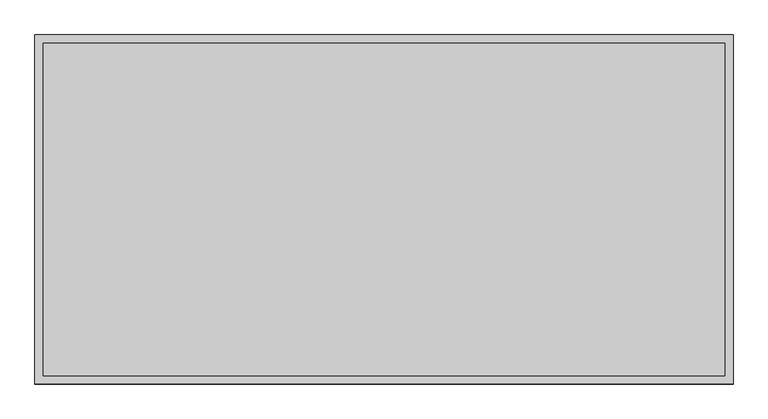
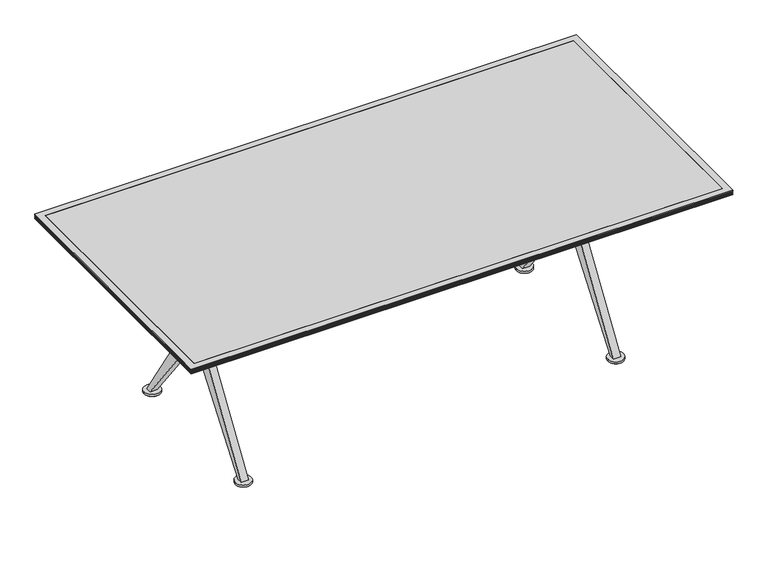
"""IFC4 building model written with IfcOpenShell, lengths in millimetres: furniture geometry, Coalesse_AM_Table_Conference_Ballet_Rectangular_XBase : Folding - 84L x 42W."""

import ifcopenshell
import ifcopenshell.guid

model = None  # the IFC model being written
_history = None  # IfcOwnerHistory: only IFC2X3 demands one
_inside = {}  # id of a spatial element -> (the spatial element, [elements in it])
_under = {}  # id of a project, library or spatial element -> (it, [spatial elements below it])
_declared = {}  # id of a project -> (the project, [libraries it declares])
_typed = {}  # id of a type object -> (the type object, [elements of that type])
_made_of = {}  # id of a material, layer set ... -> (it, [elements and type objects made of it])


def new_model(schema):
    """Start an empty IFC model of exactly this schema.

    Asked for "IFC4X3", IfcOpenShell would pick the latest addendum, in which some entities
    have other attributes; the version numbers below select the first issue.
    IFC2X3 requires an IfcOwnerHistory on every rooted entity: one is made here for all.
    """
    global model, _history
    if schema == "IFC4X3":
        model = ifcopenshell.file(schema_version=(4, 3, 0, 0))
    else:
        model = ifcopenshell.file(schema=schema)
    _inside.clear()
    _under.clear()
    _declared.clear()
    _typed.clear()
    _made_of.clear()
    _history = None
    if model.schema == "IFC2X3":
        org = make("IfcOrganization", Name="unknown")
        user = make(
            "IfcPersonAndOrganization",
            ThePerson=make("IfcPerson", FamilyName="unknown"),
            TheOrganization=org,
        )
        app = make(
            "IfcApplication",
            ApplicationDeveloper=org,
            Version="unknown",
            ApplicationFullName="unknown",
            ApplicationIdentifier="unknown",
        )
        _history = make(
            "IfcOwnerHistory",
            OwningUser=user,
            OwningApplication=app,
            ChangeAction="ADDED",
            CreationDate=0,
        )
    return model


def make(cls, **values):
    """One entity of the class cls with the attributes given. An attribute that is None is left unset."""
    return model.create_entity(
        cls, **{name: value for name, value in values.items() if value is not None}
    )


def rooted(cls, **values):
    """An entity with a GlobalId (a new one), such as an element, a storey or a relation."""
    return make(cls, GlobalId=ifcopenshell.guid.new(), OwnerHistory=_history, **values)


def si_unit(unit_type, name, prefix=None):
    """IfcSIUnit, for example si_unit("LENGTHUNIT", "METRE", prefix="MILLI")."""
    return make("IfcSIUnit", UnitType=unit_type, Prefix=prefix, Name=name)


def assignment(units):
    """IfcUnitAssignment: the units of a project."""
    return None if units is None else make("IfcUnitAssignment", Units=units)


def point(xyz):
    """IfcCartesianPoint."""
    return None if xyz is None else make("IfcCartesianPoint", Coordinates=xyz)


def direction(xyz):
    """IfcDirection."""
    return None if xyz is None else make("IfcDirection", DirectionRatios=xyz)


def frame(location, z_axis=None, x_axis=None):
    """IfcAxis2Placement3D, a coordinate frame: its origin and axes. An axis left out is left unset."""
    return make(
        "IfcAxis2Placement3D",
        Location=point(location),
        Axis=direction(z_axis),
        RefDirection=direction(x_axis),
    )


def frame_2d(location, x_axis=None):
    """IfcAxis2Placement2D, a coordinate frame in the plane: its origin and x axis."""
    return make(
        "IfcAxis2Placement2D", Location=point(location), RefDirection=direction(x_axis)
    )


def origin():
    """The frame at (0, 0, 0) with its axes left unset."""
    return frame((0.0, 0.0, 0.0))


def origin_with_axes():
    """The frame at (0, 0, 0) with the z axis (0, 0, 1) and the x axis (1, 0, 0) written out."""
    return frame((0.0, 0.0, 0.0), z_axis=(0.0, 0.0, 1.0), x_axis=(1.0, 0.0, 0.0))


def place(relative_to, where):
    """IfcLocalPlacement: puts the frame where relative to a parent placement (None: the world)."""
    return make(
        "IfcLocalPlacement", PlacementRelTo=relative_to, RelativePlacement=where
    )


def context(
    kind, dimensions, precision=None, world=None, true_north=None, identifier=None
):
    """IfcGeometricRepresentationContext, for example the 3D "Model" context."""
    return make(
        "IfcGeometricRepresentationContext",
        ContextIdentifier=identifier,
        ContextType=kind,
        CoordinateSpaceDimension=dimensions,
        Precision=precision,
        WorldCoordinateSystem=world,
        TrueNorth=true_north,
    )


def project(units=None, contexts=None):
    """IfcProject with its units and contexts."""
    return rooted(
        "IfcProject",
        Name="project",
        RepresentationContexts=contexts,
        UnitsInContext=assignment(units),
    )


def spatial(cls, under=None, at=None, **own):
    """A site, building, storey or space (cls), placed at a placement, below another one or the project."""
    s = rooted(cls, ObjectPlacement=at, **own)
    if under is not None:
        _under.setdefault(under.id(), (under, []))[1].append(s)
    return s


def polyline(points):
    """IfcPolyline through the points."""
    return make("IfcPolyline", Points=[point(p) for p in points])


def circle_curve(where, radius):
    """IfcCircle in the frame where."""
    return make("IfcCircle", Position=where, Radius=radius)


def trimmed(basis, trim1, trim2, sense, master):
    """IfcTrimmedCurve: the piece of a basis curve between two trims."""
    return make(
        "IfcTrimmedCurve",
        BasisCurve=basis,
        Trim1=trim1,
        Trim2=trim2,
        SenseAgreement=sense,
        MasterRepresentation=master,
    )


def segment(curve, same_sense, transition):
    """IfcCompositeCurveSegment."""
    return make(
        "IfcCompositeCurveSegment",
        Transition=transition,
        SameSense=same_sense,
        ParentCurve=curve,
    )


def composite_curve(segments, self_intersect=None):
    """IfcCompositeCurve: segments joined end to end."""
    return make("IfcCompositeCurve", Segments=segments, SelfIntersect=self_intersect)


def outline(outer, holes=None, kind="AREA"):
    """IfcArbitraryClosedProfileDef: a profile drawn as a closed curve; with holes, ...WithVoids."""
    if holes is None:
        return make("IfcArbitraryClosedProfileDef", ProfileType=kind, OuterCurve=outer)
    return make(
        "IfcArbitraryProfileDefWithVoids",
        ProfileType=kind,
        OuterCurve=outer,
        InnerCurves=holes,
    )


def extrude(swept, where, along, depth):
    """IfcExtrudedAreaSolid: the profile swept, set in the frame where, extruded along a direction by depth."""
    return make(
        "IfcExtrudedAreaSolid",
        SweptArea=swept,
        Position=where,
        ExtrudedDirection=direction(along),
        Depth=depth,
    )


def faces_of(points, faces, orient=None, outer=None):
    """IfcFace entities. A face is a list of loops; a loop is a list of indices into points, from 0.

    orient and outer hold one flag for each loop. By default every Orientation is true, the
    first loop of a face is its IfcFaceOuterBound and the others are IfcFaceBound.
    """
    made = []
    for i, loops in enumerate(faces):
        bounds = []
        for j, loop in enumerate(loops):
            is_outer = j == 0 if outer is None else outer[i][j]
            bounds.append(
                make(
                    "IfcFaceOuterBound" if is_outer else "IfcFaceBound",
                    Bound=make("IfcPolyLoop", Polygon=[points[k] for k in loop]),
                    Orientation=True if orient is None else orient[i][j],
                )
            )
        made.append(make("IfcFace", Bounds=bounds))
    return made


def faceted_brep(points, faces, orient=None, outer=None, voids=None):
    """IfcFacetedBrep: a solid bounded by flat faces; with voids (closed shells), ...WithVoids."""
    shared = [point(p) for p in points]
    hull = make("IfcClosedShell", CfsFaces=faces_of(shared, faces, orient, outer))
    if voids is None:
        return make("IfcFacetedBrep", Outer=hull)
    return make(
        "IfcFacetedBrepWithVoids",
        Outer=hull,
        Voids=[
            make(cls, CfsFaces=faces_of(shared, fs, o, b)) for cls, fs, o, b in voids
        ],
    )


def shape(context_of_items, identifier, shape_type, items):
    """IfcShapeRepresentation: the items that make up one representation, for example the "Body"."""
    return make(
        "IfcShapeRepresentation",
        ContextOfItems=context_of_items,
        RepresentationIdentifier=identifier,
        RepresentationType=shape_type,
        Items=items,
    )


def source(mapping_origin, context_of_items, identifier, shape_type, items):
    """IfcRepresentationMap: a shape defined once, which mapped items show again and again."""
    return make(
        "IfcRepresentationMap",
        MappingOrigin=mapping_origin,
        MappedRepresentation=shape(context_of_items, identifier, shape_type, items),
    )


def transform(
    local_origin,
    x_axis=None,
    y_axis=None,
    z_axis=None,
    scale=None,
    scale2=None,
    scale3=None,
    uniform=True,
):
    """IfcCartesianTransformationOperator3D, or its non-uniform kind. x_axis, y_axis, z_axis: its Axis1, 2, 3."""
    if uniform:
        return make(
            "IfcCartesianTransformationOperator3D",
            Axis1=direction(x_axis),
            Axis2=direction(y_axis),
            LocalOrigin=point(local_origin),
            Scale=scale,
            Axis3=direction(z_axis),
        )
    return make(
        "IfcCartesianTransformationOperator3DnonUniform",
        Axis1=direction(x_axis),
        Axis2=direction(y_axis),
        LocalOrigin=point(local_origin),
        Scale=scale,
        Axis3=direction(z_axis),
        Scale2=scale2,
        Scale3=scale3,
    )


def mapped(mapping_source, mapping_target):
    """IfcMappedItem: shows the shape of a source again, moved by a transform."""
    return make(
        "IfcMappedItem", MappingSource=mapping_source, MappingTarget=mapping_target
    )


def made_of(thing, what):
    """Note that an element or type object is made of a material, layer set ...; save() writes the relation."""
    if what is not None:
        _made_of.setdefault(what.id(), (what, []))[1].append(thing)
    return thing


def element(
    cls,
    number,
    at=None,
    inside=None,
    cuts=None,
    type_object=None,
    material=None,
    context=None,
    identifier="Body",
    shape_type=None,
    held_by="IfcProductDefinitionShape",
    body=None,
    shapes=None,
    **own,
):
    """One element of the class cls, such as IfcWall. Its Tag is "e" and its number.

    at: its placement. inside: the storey or other place that contains it. cuts: it is an
    opening in that element (IfcRelVoidsElement). A single representation is given by context,
    identifier, shape_type and body (its items); several are given by shapes. held_by: the class
    of the entity that holds the representations. save() writes the other relations.
    """
    e = rooted(cls, Tag="e%d" % number, ObjectPlacement=at, **own)
    if body is not None:
        shapes = [shape(context, identifier, shape_type, body)]
    if shapes is not None:
        e.Representation = make(held_by, Representations=shapes)
    if inside is not None:
        _inside.setdefault(inside.id(), (inside, []))[1].append(e)
    if cuts is not None:
        rooted(
            "IfcRelVoidsElement", RelatingBuildingElement=cuts, RelatedOpeningElement=e
        )
    if type_object is not None:
        _typed.setdefault(type_object.id(), (type_object, []))[1].append(e)
    return made_of(e, material)


def aggregate(whole, parts):
    """IfcRelAggregates: a whole, such as a stair, and the parts it consists of."""
    return rooted("IfcRelAggregates", RelatingObject=whole, RelatedObjects=parts)


def save(model, path):
    """Write the relations noted so far, then the file.

    IfcRelAggregates (storeys below a building ...), IfcRelContainedInSpatialStructure (elements
    in a storey), IfcRelDefinesByType, IfcRelAssociatesMaterial and IfcRelDeclares: one each for
    every whole, place, type object, material and project.
    """
    for whole, parts in _under.values():
        aggregate(whole, parts)
    for where, things in _inside.values():
        rooted(
            "IfcRelContainedInSpatialStructure",
            RelatedElements=things,
            RelatingStructure=where,
        )
    for kind, things in _typed.values():
        rooted("IfcRelDefinesByType", RelatedObjects=things, RelatingType=kind)
    for what, things in _made_of.values():
        rooted("IfcRelAssociatesMaterial", RelatedObjects=things, RelatingMaterial=what)
    for by, libraries in _declared.values():
        rooted("IfcRelDeclares", RelatingContext=by, RelatedDefinitions=libraries)
    model.write(path)


def plane_surface(at):
    """IfcPlane: the flat surface through the origin of the frame at, square to its z axis."""
    return make("IfcPlane", Position=at)


def cylinder_surface(at, radius):
    """IfcCylindricalSurface: all points at the distance radius from the z axis of the frame at."""
    return make("IfcCylindricalSurface", Position=at, Radius=radius)


def advanced_brep(points, edges, surfaces, faces):
    """IfcAdvancedBrep: a solid bounded by faces that lie on surfaces and meet in shared edges.

    An edge is (start, end): straight between two places in points (the first is 0);
    or (start, end, curve); or (start, end, curve, False) where it runs against its curve.
    A face is (place in surfaces, loops), or (place, loops, False) where it looks against
    its surface's normal. A loop lists edges by number (the first is 1), with a minus sign
    where the edge is run from its end to its start. The first loop is the outer one.
    """
    corners = [point(p) for p in points]
    vertices = [make("IfcVertexPoint", VertexGeometry=c) for c in corners]
    made = []
    for start, end, *more in edges:
        made.append(
            make(
                "IfcEdgeCurve",
                EdgeStart=vertices[start],
                EdgeEnd=vertices[end],
                EdgeGeometry=more[0] if more else make("IfcPolyline", Points=[corners[start], corners[end]]),
                SameSense=more[1] if len(more) > 1 else True,
            )
        )
    hull = []
    for where, loops, *sense in faces:
        bounds = []
        for j, loop in enumerate(loops):
            ring = [make("IfcOrientedEdge", EdgeElement=made[abs(k) - 1], Orientation=k > 0) for k in loop]
            bounds.append(
                make(
                    "IfcFaceOuterBound" if j == 0 else "IfcFaceBound",
                    Bound=make("IfcEdgeLoop", EdgeList=ring),
                    Orientation=True,
                )
            )
        hull.append(make("IfcAdvancedFace", Bounds=bounds, FaceSurface=surfaces[where], SameSense=sense[0] if sense else True))
    return make("IfcAdvancedBrep", Outer=make("IfcClosedShell", CfsFaces=hull))


def furniture_600607fc(model_context):
    return source(origin(), model_context, "Body", "SolidModel", [
        extrude(outline(composite_curve([segment(trimmed(circle_curve(frame_2d((-733.4365536, 310.3799254)), 25.4), [point((-758.8365536, 310.3799254))], [point((-708.0365536, 310.3799254))], False, "CARTESIAN"), True, "CONTINUOUS"), segment(trimmed(circle_curve(frame_2d((-733.4365536, 310.3799254)), 25.4), [point((-708.0365536, 310.3799254))], [point((-758.8365536, 310.3799254))], False, "CARTESIAN"), True, "CONTINUOUS")], self_intersect=False)), origin_with_axes(), (0.0, 0.0, 1.0), 4.5427804),
        extrude(outline(composite_curve([segment(trimmed(circle_curve(frame_2d((-734.0541541, -311.83186)), 25.4), [point((-759.4541541, -311.83186))], [point((-708.6541541, -311.83186))], False, "CARTESIAN"), True, "CONTINUOUS"), segment(trimmed(circle_curve(frame_2d((-734.0541541, -311.83186)), 25.4), [point((-708.6541541, -311.83186))], [point((-759.4541541, -311.83186))], False, "CARTESIAN"), True, "CONTINUOUS")], self_intersect=False)), origin_with_axes(), (0.0, 0.0, 1.0), 4.5427804),
        extrude(outline(composite_curve([segment(trimmed(circle_curve(frame_2d((733.4365536, 310.388)), 25.4), [point((708.0365536, 310.388))], [point((758.8365536, 310.388))], False, "CARTESIAN"), True, "CONTINUOUS"), segment(trimmed(circle_curve(frame_2d((733.4365536, 310.388)), 25.4), [point((758.8365536, 310.388))], [point((708.0365536, 310.388))], False, "CARTESIAN"), True, "CONTINUOUS")], self_intersect=False)), origin_with_axes(), (0.0, 0.0, 1.0), 4.5427804),
        extrude(outline(composite_curve([segment(trimmed(circle_curve(frame_2d((734.0541541, -311.83186)), 25.4), [point((708.6541541, -311.83186))], [point((759.4541541, -311.83186))], False, "CARTESIAN"), True, "CONTINUOUS"), segment(trimmed(circle_curve(frame_2d((734.0541541, -311.83186)), 25.4), [point((759.4541541, -311.83186))], [point((708.6541541, -311.83186))], False, "CARTESIAN"), True, "CONTINUOUS")], self_intersect=False)), origin_with_axes(), (0.0, 0.0, 1.0), 4.5427804),
        extrude(outline(composite_curve([segment(trimmed(circle_curve(frame_2d((-733.4365536, 310.3799254)), 31.7510292), [point((-765.1875828, 310.3799254))], [point((-701.6855244, 310.3799254))], False, "CARTESIAN"), True, "CONTINUOUS"), segment(trimmed(circle_curve(frame_2d((-733.4365536, 310.3799254)), 31.7510292), [point((-701.6855244, 310.3799254))], [point((-765.1875828, 310.3799254))], False, "CARTESIAN"), True, "CONTINUOUS")], self_intersect=False)), frame((0.0, 0.0, 4.5427804), z_axis=(0.0, 0.0, 1.0), x_axis=(1.0, 0.0, 0.0)), (0.0, 0.0, 1.0), 8.1572196),
        extrude(outline(composite_curve([segment(trimmed(circle_curve(frame_2d((-734.0541541, -311.83186)), 31.75), [point((-765.8041541, -311.83186))], [point((-702.3041541, -311.83186))], False, "CARTESIAN"), True, "CONTINUOUS"), segment(trimmed(circle_curve(frame_2d((-734.0541541, -311.83186)), 31.75), [point((-702.3041541, -311.83186))], [point((-765.8041541, -311.83186))], False, "CARTESIAN"), True, "CONTINUOUS")], self_intersect=False)), frame((0.0, 0.0, 4.5427804), z_axis=(0.0, 0.0, 1.0), x_axis=(1.0, 0.0, 0.0)), (0.0, 0.0, 1.0), 8.1572196),
        extrude(outline(composite_curve([segment(trimmed(circle_curve(frame_2d((733.4365536, 310.388)), 31.7510292), [point((701.6855244, 310.388))], [point((765.1875828, 310.388))], False, "CARTESIAN"), True, "CONTINUOUS"), segment(trimmed(circle_curve(frame_2d((733.4365536, 310.388)), 31.7510292), [point((765.1875828, 310.388))], [point((701.6855244, 310.388))], False, "CARTESIAN"), True, "CONTINUOUS")], self_intersect=False)), frame((0.0, 0.0, 4.5427804), z_axis=(0.0, 0.0, 1.0), x_axis=(1.0, 0.0, 0.0)), (0.0, 0.0, 1.0), 8.1572196),
        extrude(outline(composite_curve([segment(trimmed(circle_curve(frame_2d((734.0541541, -311.83186)), 31.75), [point((702.3041541, -311.83186))], [point((765.8041541, -311.83186))], False, "CARTESIAN"), True, "CONTINUOUS"), segment(trimmed(circle_curve(frame_2d((734.0541541, -311.83186)), 31.75), [point((765.8041541, -311.83186))], [point((702.3041541, -311.83186))], False, "CARTESIAN"), True, "CONTINUOUS")], self_intersect=False)), frame((0.0, 0.0, 4.5427804), z_axis=(0.0, 0.0, 1.0), x_axis=(1.0, 0.0, 0.0)), (0.0, 0.0, 1.0), 8.1572196),
        extrude(outline(polyline([(21.0343629, 381.0), (21.0343629, 482.7111245), (322.2625018, 12.7), (299.8750745, 12.7), (21.0343629, 381.0)])), frame((719.1375, 0.0, 0.0), z_axis=(1.0, 0.0, 0.0), x_axis=(0.0, 1.0, 0.0)), (0.0, 0.0, 1.0), 28.575),
        extrude(outline(polyline([(-21.0343629, 381.0), (-299.8750745, 12.7), (-322.2625018, 12.7), (-21.0343629, 482.7111245), (-21.0343629, 381.0)])), frame((719.1375, 0.0, 0.0), z_axis=(1.0, 0.0, 0.0), x_axis=(0.0, 1.0, 0.0)), (0.0, 0.0, 1.0), 28.575),
        extrude(outline(polyline([(21.0343629, 381.0), (21.0343629, 482.7111245), (322.2625018, 12.7), (299.8750745, 12.7), (21.0343629, 381.0)])), frame((-747.7125, 0.0, 0.0), z_axis=(1.0, 0.0, 0.0), x_axis=(0.0, 1.0, 0.0)), (0.0, 0.0, 1.0), 28.5877172),
        extrude(outline(polyline([(-21.0343629, 381.0), (-299.8750745, 12.7), (-322.2625018, 12.7), (-21.0343629, 482.7111245), (-21.0343629, 381.0)])), frame((-747.7125, 0.0, 0.0), z_axis=(1.0, 0.0, 0.0), x_axis=(0.0, 1.0, 0.0)), (0.0, 0.0, 1.0), 28.5877172),
        extrude(outline(polyline([(-21.0343629, 577.7388634), (-333.375, 698.5000242), (-305.990625, 698.5000242), (-21.0343629, 641.3500242), (-21.0343629, 577.7388634)])), frame((719.1375, 0.0, 0.0), z_axis=(1.0, 0.0, 0.0), x_axis=(0.0, 1.0, 0.0)), (0.0, 0.0, 1.0), 28.575),
        extrude(outline(polyline([(21.0343629, 577.7388634), (21.0343629, 641.3501773), (305.990625, 698.5000242), (333.375, 698.5000242), (21.0343629, 577.7388634)])), frame((719.1375, 0.0, 0.0), z_axis=(1.0, 0.0, 0.0), x_axis=(0.0, 1.0, 0.0)), (0.0, 0.0, 1.0), 28.575),
        extrude(outline(polyline([(-21.0343629, 577.7388634), (-333.375, 698.5000242), (-305.990625, 698.5000242), (-21.0343629, 641.3500242), (-21.0343629, 577.7388634)])), frame((-747.7125, 0.0, 0.0), z_axis=(1.0, 0.0, 0.0), x_axis=(0.0, 1.0, 0.0)), (0.0, 0.0, 1.0), 28.5877172),
        extrude(outline(polyline([(21.0343629, 577.7388634), (21.0343629, 641.3501773), (305.990625, 698.5000242), (333.375, 698.5000242), (21.0343629, 577.7388634)])), frame((-747.7125, 0.0, 0.0), z_axis=(1.0, 0.0, 0.0), x_axis=(0.0, 1.0, 0.0)), (0.0, 0.0, 1.0), 28.5877172),
        advanced_brep(
        [(712.0154775, 12.6999879, 492.1250121), (-712.0154775, 12.6999879, 492.1250121), (-712.0154775, 12.6999879, 568.3250121), (712.0154775, 12.6999879, 568.3250121), (-708.6125298, 0.0, 568.3250121), (-712.0154775, -12.6999879, 568.3250121), (712.0154775, -12.6999879, 568.3250121), (708.6125298, 0.0, 568.3250121), (-712.0154775, -12.6999879, 492.1250121), (712.0154775, -12.6999879, 492.1250121), (708.6125298, 0.0, 492.1250121), (-708.6125298, 0.0, 492.1250121), (-759.4125298, 0.0, 641.3500242), (-708.6125298, 0.0, 641.3500242), (708.6125298, 0.0, 641.3500242), (759.4125298, 0.0, 641.3500242), (-759.4125298, 0.0, 381.0), (-708.6125298, 0.0, 381.0), (708.6125298, 0.0, 381.0), (759.4125298, 0.0, 381.0)],
        [
            (0, 1),
            (1, 2),
            (2, 3),
            (3, 0),
            (2, 4, circle_curve(frame((-734.0125298, 0.0, 568.3250121), z_axis=(0.0, 0.0, -1.0), x_axis=(1.0, 0.0, 0.0)), 25.4)),
            (4, 5, circle_curve(frame((-734.0125298, 0.0, 568.3250121), z_axis=(0.0, 0.0, -1.0), x_axis=(1.0, 0.0, 0.0)), 25.4)),
            (5, 6),
            (6, 7, circle_curve(frame((734.0125298, 0.0, 568.3250121), z_axis=(0.0, 0.0, -1.0), x_axis=(1.0, 0.0, 0.0)), 25.4)),
            (7, 3, circle_curve(frame((734.0125298, 0.0, 568.3250121), z_axis=(0.0, 0.0, -1.0), x_axis=(1.0, 0.0, 0.0)), 25.4)),
            (5, 8),
            (8, 9),
            (9, 6),
            (0, 10, circle_curve(frame((734.0125298, 0.0, 492.1250121), z_axis=(0.0, 0.0, 1.0), x_axis=(1.0, 0.0, 0.0)), 25.4)),
            (10, 9, circle_curve(frame((734.0125298, 0.0, 492.1250121), z_axis=(0.0, 0.0, 1.0), x_axis=(1.0, 0.0, 0.0)), 25.4)),
            (8, 11, circle_curve(frame((-734.0125298, 0.0, 492.1250121), z_axis=(0.0, 0.0, 1.0), x_axis=(1.0, 0.0, 0.0)), 25.4)),
            (11, 1, circle_curve(frame((-734.0125298, 0.0, 492.1250121), z_axis=(0.0, 0.0, 1.0), x_axis=(1.0, 0.0, 0.0)), 25.4)),
            (12, 13, circle_curve(frame((-734.0125298, 0.0, 641.3500242), z_axis=(0.0, 0.0, 1.0), x_axis=(1.0, 0.0, 0.0)), 25.4)),
            (13, 12, circle_curve(frame((-734.0125298, 0.0, 641.3500242), z_axis=(0.0, 0.0, 1.0), x_axis=(1.0, 0.0, 0.0)), 25.4)),
            (14, 15, circle_curve(frame((734.0125298, 0.0, 641.3500242), z_axis=(0.0, 0.0, 1.0), x_axis=(1.0, 0.0, 0.0)), 25.4)),
            (15, 14, circle_curve(frame((734.0125298, 0.0, 641.3500242), z_axis=(0.0, 0.0, 1.0), x_axis=(1.0, 0.0, 0.0)), 25.4)),
            (16, 17, circle_curve(frame((-734.0125298, 0.0, 381.0), z_axis=(0.0, 0.0, -1.0), x_axis=(1.0, 0.0, 0.0)), 25.4)),
            (17, 16, circle_curve(frame((-734.0125298, 0.0, 381.0), z_axis=(0.0, 0.0, -1.0), x_axis=(1.0, 0.0, 0.0)), 25.4)),
            (18, 19, circle_curve(frame((734.0125298, 0.0, 381.0), z_axis=(0.0, 0.0, -1.0), x_axis=(1.0, 0.0, 0.0)), 25.4)),
            (19, 18, circle_curve(frame((734.0125298, 0.0, 381.0), z_axis=(0.0, 0.0, -1.0), x_axis=(1.0, 0.0, 0.0)), 25.4)),
            (12, 16),
            (17, 11),
            (4, 13),
            (14, 7),
            (10, 18),
            (19, 15),
        ],
        [
            plane_surface(frame((719.1375, 12.6999879, 492.1250121), z_axis=(0.0, 1.0, 0.0), x_axis=(-1.0, 0.0, 0.0))),
            plane_surface(frame((719.1375, 12.6999879, 568.3250121), z_axis=(0.0, 0.0, 1.0), x_axis=(-1.0, 0.0, 0.0))),
            plane_surface(frame((719.1375, -12.6999879, 568.3250121), z_axis=(0.0, -1.0, 0.0), x_axis=(-1.0, 0.0, 0.0))),
            plane_surface(frame((719.1375, -12.6999879, 492.1250121), z_axis=(0.0, 0.0, -1.0), x_axis=(-1.0, 0.0, 0.0))),
            plane_surface(frame((-708.6125298, 0.0, 641.3500242), z_axis=(0.0, 0.0, 1.0), x_axis=(0.0, 1.0, 0.0))),
            plane_surface(frame((-708.6125298, 0.0, 381.0), z_axis=(0.0, 0.0, -1.0), x_axis=(0.0, -1.0, 0.0))),
            cylinder_surface(frame((-734.0125298, 0.0, 381.0), z_axis=(0.0, 0.0, 1.0), x_axis=(1.0, 0.0, 0.0)), 25.4),
            cylinder_surface(frame((734.0125298, 0.0, 0.0), z_axis=(0.0, 0.0, 1.0), x_axis=(1.0, 0.0, 0.0)), 25.4),
        ],
        [
            (0, [[1, 2, 3, 4]]),
            (1, [[-3, 5, 6, 7, 8, 9]]),
            (2, [[-7, 10, 11, 12]]),
            (3, [[-1, 13, 14, -11, 15, 16]]),
            (4, [[17, 18]]),
            (4, [[19, 20]]),
            (5, [[21, 22]]),
            (5, [[23, 24]]),
            (6, [[-17, 25, -22, 26, -15, -10, -6, 27]]),
            (6, [[-18, -27, -5, -2, -16, -26, -21, -25]]),
            (7, [[-19, 28, -8, -12, -14, 29, -24, 30]]),
            (7, [[-20, -30, -23, -29, -13, -4, -9, -28]]),
        ],
    ),
        faceted_brep([(-1066.8003633, 533.4, 704.85), (-1041.4003876, 508.0000242, 698.5000242), (-1041.4003876, -507.9999516, 698.5000242), (-1066.8003633, -533.3999273, 704.85), (-1066.8003633, 533.4, 708.0250242), (-1066.8003633, -533.3999273, 708.0250242), (-1063.6253755, 530.2250121, 709.6125), (-1063.6253755, -530.2249394, 709.6125), (-1066.8003633, 533.4, 711.1999758), (-1066.8003633, -533.3999273, 711.1999758), (-1063.6253755, 530.2250121, 712.7875242), (-1063.6253755, -530.2249394, 712.7875242), (-1066.8003633, 533.4, 714.375), (-1066.8003633, -533.3999273, 714.375), (-1063.6253755, 530.2250121, 715.9624758), (-1063.6253755, -530.2249394, 715.9624758), (-1066.8003633, 533.4, 717.5500242), (-1066.8003633, -533.3999273, 717.5500242), (-1063.6253755, 530.2250121, 719.1375), (-1063.6253755, -530.2249394, 719.1375), (-1066.8003633, 533.4, 720.7249758), (-1066.8003633, -533.3999273, 720.7249758), (-1066.8003633, 533.4, 723.9), (-1066.8003633, -533.3999273, 723.9), (-1041.4003876, 508.0000242, 723.9), (-1041.4003876, -507.9999516, 723.9), (1041.4, -507.9999516, 698.5000242), (1066.7999758, -533.3999273, 704.85), (1066.7999758, -533.3999273, 708.0250242), (1063.6249879, -530.2249394, 709.6125), (1066.7999758, -533.3999273, 711.1999758), (1063.6249879, -530.2249394, 712.7875242), (1066.7999758, -533.3999273, 714.375), (1063.6249879, -530.2249394, 715.9624758), (1066.7999758, -533.3999273, 717.5500242), (1063.6249879, -530.2249394, 719.1375), (1066.7999758, -533.3999273, 720.7249758), (1066.7999758, -533.3999273, 723.9), (1041.4, -507.9999516, 723.9), (1041.4, 508.0000242, 698.5000242), (1066.7999758, 533.4, 704.85), (1066.7999758, 533.4, 708.0250242), (1063.6249879, 530.2250121, 709.6125), (1066.7999758, 533.4, 711.1999758), (1063.6249879, 530.2250121, 712.7875242), (1066.7999758, 533.4, 714.375), (1063.6249879, 530.2250121, 715.9624758), (1066.7999758, 533.4, 717.5500242), (1063.6249879, 530.2250121, 719.1375), (1066.7999758, 533.4, 720.7249758), (1066.7999758, 533.4, 723.9), (1041.4, 508.0000242, 723.9)], [[[0, 1, 2, 3]], [[4, 0, 3, 5]], [[6, 4, 5, 7]], [[8, 6, 7, 9]], [[10, 8, 9, 11]], [[12, 10, 11, 13]], [[14, 12, 13, 15]], [[16, 14, 15, 17]], [[18, 16, 17, 19]], [[20, 18, 19, 21]], [[22, 20, 21, 23]], [[1, 24, 25, 2]], [[3, 2, 26, 27]], [[5, 3, 27, 28]], [[7, 5, 28, 29]], [[9, 7, 29, 30]], [[11, 9, 30, 31]], [[13, 11, 31, 32]], [[15, 13, 32, 33]], [[17, 15, 33, 34]], [[19, 17, 34, 35]], [[21, 19, 35, 36]], [[23, 21, 36, 37]], [[2, 25, 38, 26]], [[27, 26, 39, 40]], [[28, 27, 40, 41]], [[29, 28, 41, 42]], [[30, 29, 42, 43]], [[31, 30, 43, 44]], [[32, 31, 44, 45]], [[33, 32, 45, 46]], [[34, 33, 46, 47]], [[35, 34, 47, 48]], [[36, 35, 48, 49]], [[37, 36, 49, 50]], [[26, 38, 51, 39]], [[40, 39, 1, 0]], [[41, 40, 0, 4]], [[42, 41, 4, 6]], [[43, 42, 6, 8]], [[44, 43, 8, 10]], [[45, 44, 10, 12]], [[46, 45, 12, 14]], [[47, 46, 14, 16]], [[48, 47, 16, 18]], [[49, 48, 18, 20]], [[50, 49, 20, 22]], [[23, 37, 50, 22], [24, 51, 38, 25]], [[39, 51, 24, 1]]]),
        extrude(outline(polyline([(1041.4, 508.0000242), (1041.4, -507.9999516), (-1041.4003876, -507.9999516), (-1041.4003876, 508.0000242), (1041.4, 508.0000242)])), frame((0.0, 0.0, 704.85), z_axis=(0.0, 0.0, 1.0), x_axis=(1.0, 0.0, 0.0)), (0.0, 0.0, 1.0), 19.05),
    ])


if __name__ == "__main__":
    model = new_model("IFC4")
    model_context = context("Model", 3, world=origin())
    ifc_project = project(units=[si_unit("LENGTHUNIT", "METRE", prefix="MILLI")], contexts=[model_context])
    site = spatial("IfcSite", under=ifc_project)
    building = spatial("IfcBuilding", under=site)
    placement = place(None, origin())
    furniture_shape = furniture_600607fc(model_context)
    element("IfcFurniture", 1, ObjectType="Coalesse_AM_Table_Conference_Ballet_Rectangular_XBase : Folding - 84L x 42W", at=placement, inside=building, context=model_context, shape_type="MappedRepresentation", body=[
        mapped(furniture_shape, transform((0.0, 0.0, 0.0), x_axis=(1.0, 0.0, 0.0), y_axis=(0.0, 1.0, 0.0), z_axis=(0.0, 0.0, 1.0))),
    ])
    save(model, "model.ifc")
